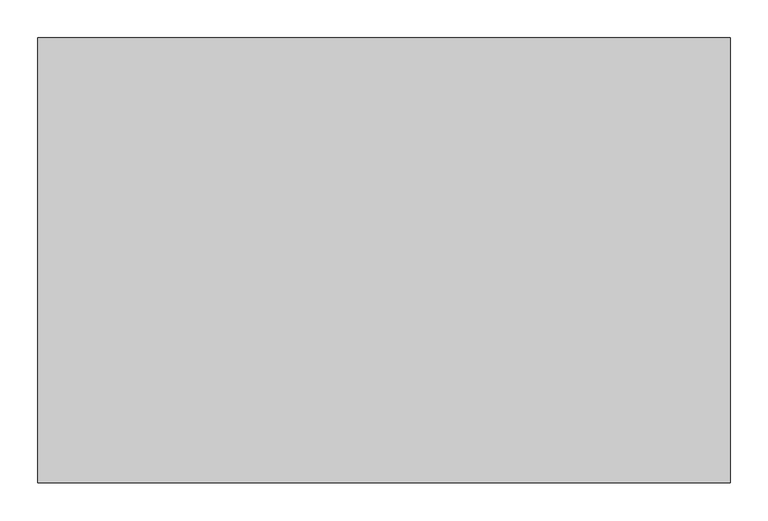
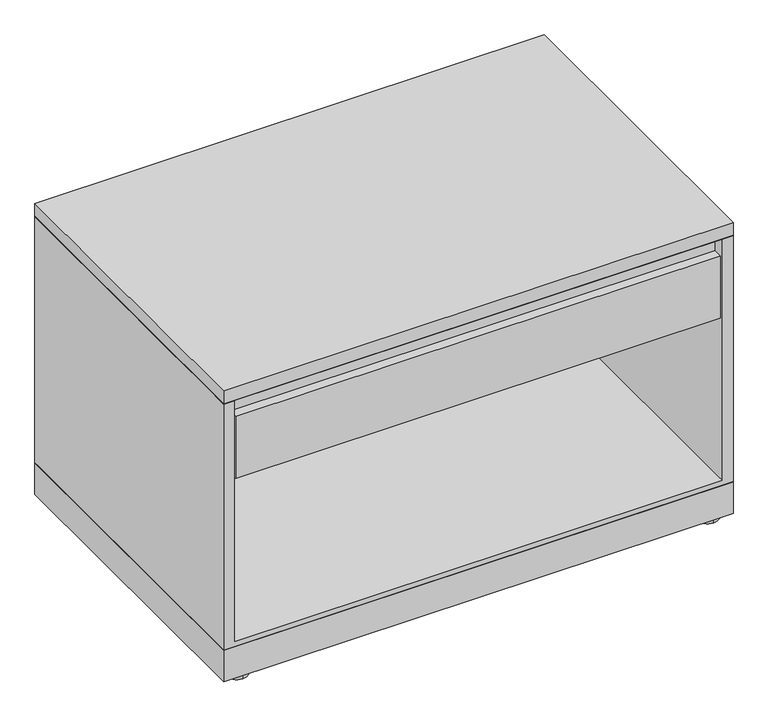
"""IFC4 building model written with IfcOpenShell, lengths in millimetres: furniture geometry, Steelcase - Universal Storage - Lateral File - 1.5 High - Flush Steel : Drawer/Open - 23 1/8D x 36W."""

from ifc_helpers import new_model, si_unit, point, frame, frame_2d, origin, origin_with_axes, place, context, project, spatial, polyline, circle_curve, trimmed, segment, composite_curve, outline, extrude, faceted_brep, source, transform, mapped, element, save


def furniture_88f2ae34(model_context):
    return source(origin(), model_context, "Body", "SolidModel", [
        extrude(outline(polyline([(914.4, 587.502), (914.4, 0.0), (0.0, 0.0), (0.0, 587.502), (914.4, 587.502)])), frame((0.0, 0.0, 6.3500002), z_axis=(0.0, 0.0, 1.0), x_axis=(1.0, 0.0, 0.0)), (0.0, 0.0, 1.0), 59.6899998),
        extrude(outline(composite_curve([segment(trimmed(circle_curve(frame_2d((879.7290058, 565.1653666)), 20.32), [point((879.7290058, 544.8453666))], [point((879.7290058, 585.4853666))], False, "CARTESIAN"), True, "CONTINUOUS"), segment(trimmed(circle_curve(frame_2d((879.7290058, 565.1653666)), 20.32), [point((879.7290058, 585.4853666))], [point((879.7290058, 544.8453666))], False, "CARTESIAN"), True, "CONTINUOUS")], self_intersect=False)), origin_with_axes(), (0.0, 0.0, 1.0), 6.3500002),
        extrude(outline(composite_curve([segment(trimmed(circle_curve(frame_2d((879.7290058, 20.7491455)), 20.32), [point((879.7290058, 0.4291455))], [point((879.7290058, 41.0691455))], False, "CARTESIAN"), True, "CONTINUOUS"), segment(trimmed(circle_curve(frame_2d((879.7290058, 20.7491455)), 20.32), [point((879.7290058, 41.0691455))], [point((879.7290058, 0.4291455))], False, "CARTESIAN"), True, "CONTINUOUS")], self_intersect=False)), origin_with_axes(), (0.0, 0.0, 1.0), 6.3500002),
        extrude(outline(composite_curve([segment(trimmed(circle_curve(frame_2d((34.29, 565.1653666)), 20.32), [point((34.29, 585.4853666))], [point((34.29, 544.8453666))], False, "CARTESIAN"), True, "CONTINUOUS"), segment(trimmed(circle_curve(frame_2d((34.29, 565.1653666)), 20.32), [point((34.29, 544.8453666))], [point((34.29, 585.4853666))], False, "CARTESIAN"), True, "CONTINUOUS")], self_intersect=False)), origin_with_axes(), (0.0, 0.0, 1.0), 6.3500002),
        extrude(outline(composite_curve([segment(trimmed(circle_curve(frame_2d((34.29, 20.7491455)), 20.32), [point((34.29, 41.0691455))], [point((34.29, 0.4291455))], False, "CARTESIAN"), True, "CONTINUOUS"), segment(trimmed(circle_curve(frame_2d((34.29, 20.7491455)), 20.32), [point((34.29, 0.4291455))], [point((34.29, 41.0691455))], False, "CARTESIAN"), True, "CONTINUOUS")], self_intersect=False)), origin_with_axes(), (0.0, 0.0, 1.0), 6.3500002),
        extrude(outline(polyline([(568.0964128, 396.7988176), (568.0964128, 410.7687861), (571.271412, 410.7687861), (571.271412, 371.5257963), (26.822418, 371.5257963), (26.822418, 396.7988176), (568.0964128, 396.7988176)])), frame((22.0472, 0.0, 0.0), z_axis=(1.0, 0.0, 0.0), x_axis=(0.0, 1.0, 0.0)), (0.0, 0.0, 1.0), 870.3056),
        extrude(outline(polyline([(1.45e-05, 534.0350121), (587.502, 534.0350121), (586.7399879, 533.273), (0.7620266, 533.273), (1.45e-05, 534.0350121)])), frame((0.0, 0.0, 0.0), z_axis=(1.0, 0.0, 0.0), x_axis=(0.0, 1.0, 0.0)), (0.0, 0.0, 1.0), 914.4),
        extrude(outline(polyline([(914.4, 587.502), (914.4, 0.0), (0.0, 0.0), (0.0, 587.502), (914.4, 587.502)])), frame((0.0, 0.0, 534.0350121), z_axis=(0.0, 0.0, 1.0), x_axis=(1.0, 0.0, 0.0)), (0.0, 0.0, 1.0), 24.6379729),
        faceted_brep([(914.4, 0.0, 66.04), (914.4, 587.502, 66.04), (914.4, 587.502, 533.273), (914.4, 0.0, 533.273), (0.0, 0.0, 533.273), (0.0, 587.502, 533.273), (0.0, 587.502, 66.04), (0.0, 0.0, 66.04), (895.35, 0.0, 533.273), (895.35, 0.0, 75.1586), (19.05, 0.0, 75.1586), (19.05, 0.0, 533.273), (19.05, 584.3269999, 533.273), (895.35, 584.3269999, 533.273), (19.05, 584.3269999, 75.1586), (895.35, 584.3269999, 75.1586)], [[[0, 1, 2, 3]], [[4, 5, 6, 7]], [[0, 3, 8, 9, 10, 11, 4, 7]], [[2, 1, 6, 5]], [[3, 2, 5, 4, 11, 12, 13, 8]], [[12, 14, 15, 13]], [[14, 12, 11, 10]], [[13, 15, 9, 8]], [[1, 0, 7, 6]], [[10, 9, 15, 14]]]),
        extrude(outline(polyline([(23.6541043, 384.1241916), (1.5178885, 384.1241916), (1.5178885, 501.1928089), (19.3741023, 501.1928089), (19.3741023, 531.799807), (23.6541043, 531.799807), (23.6541043, 384.1241916)])), frame((22.0472, 0.0, 0.0), z_axis=(1.0, 0.0, 0.0), x_axis=(0.0, 1.0, 0.0)), (0.0, 0.0, 1.0), 870.3056),
    ])


if __name__ == "__main__":
    model = new_model("IFC4")
    model_context = context("Model", 3, world=origin())
    ifc_project = project(units=[si_unit("LENGTHUNIT", "METRE", prefix="MILLI")], contexts=[model_context])
    site = spatial("IfcSite", under=ifc_project)
    building = spatial("IfcBuilding", under=site)
    placement = place(None, origin())
    furniture_shape = furniture_88f2ae34(model_context)
    element("IfcFurniture", 1, ObjectType="Steelcase - Universal Storage - Lateral File - 1.5 High - Flush Steel : Drawer/Open - 23 1/8D x 36W", at=placement, inside=building, context=model_context, shape_type="MappedRepresentation", body=[
        mapped(furniture_shape, transform((0.0, 0.0, 0.0), x_axis=(1.0, 0.0, 0.0), y_axis=(0.0, 1.0, 0.0), z_axis=(0.0, 0.0, 1.0))),
    ])
    save(model, "model.ifc")
